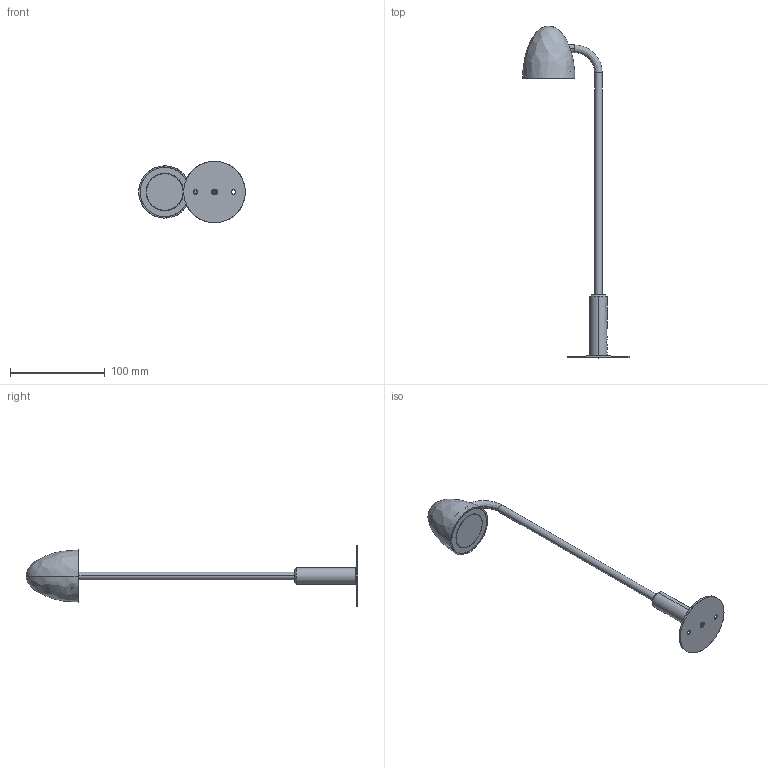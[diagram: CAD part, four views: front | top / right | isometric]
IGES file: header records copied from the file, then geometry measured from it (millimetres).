
Start section: SolidWorks IGES file using analytic representation for surfaces
Global section: file name: L:\Tecnico_PMT\R&D\PROGETTI ROADMAP 2024\OUTDOOR -METIS\Documentazione\3D per sito\POPPY\3D SITO_POPPY_350mm.IGS; native system: SolidWorks 2016; preprocessor: SolidWorks 2016; author: MartinaCorneroILTI; date: 260204.161008; units: millimetre
Bounding box: 112.43 x 350.01 x 65 mm (x, y, z)
Surface area: 44071.2 mm2 (no closed solid volume)
Topology: 0 solids, 0 shells, 90 faces, 2047 edges, 2045 vertices
Faces by surface type: revolution 60, bspline 30
